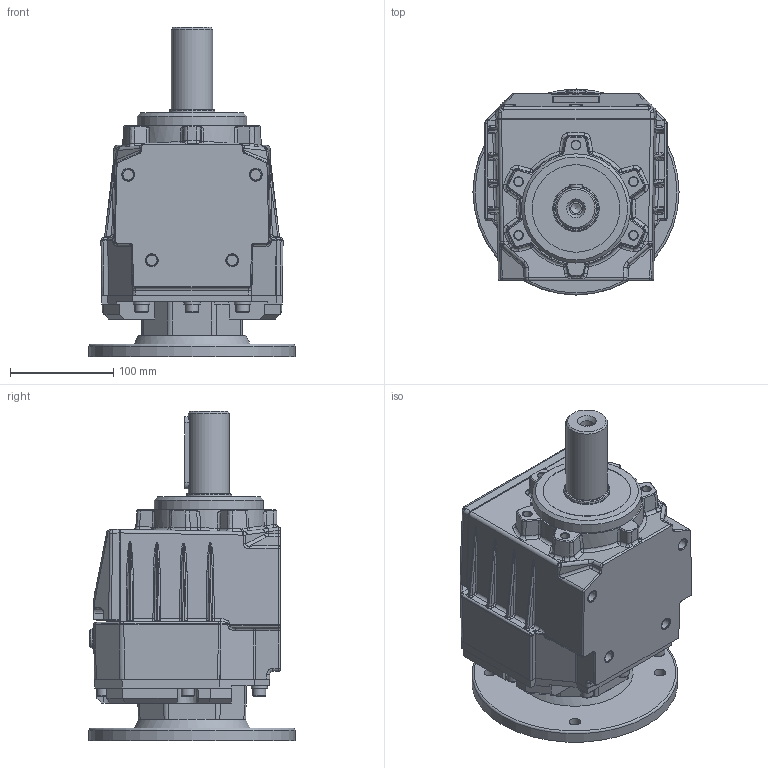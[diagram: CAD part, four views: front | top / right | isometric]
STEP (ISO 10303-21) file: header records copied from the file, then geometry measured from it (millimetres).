
FILE_DESCRIPTION( ( 'Unknown' ), '1' );
FILE_NAME( 'E:/services/configuratordownloads/customers/HYDROMEC/COASSIALI/download/9579FBB01E6A32A39D50771E93B1AE/STEP/9579FBB01E6A32A39D50771E93B1AE.3d.stp', 'Unknown', ( 'Unknown' ), ( 'Unknown' ), 'PSStep 10.1', 'Unknown', ' ' );
FILE_SCHEMA( ( 'AUTOMOTIVE_DESIGN { 1 0 10303 214 1 1 1 1 }' ) );
Length unit declared in the file: millimetre
Products named in the file (1): C618800
Bounding box: 200 x 200 x 319.4 mm (x, y, z)
Volume: 5280107.8 mm3; surface area: 299896.6 mm2
Topology: 1 solids, 24 shells, 1186 faces, 2814 edges, 1737 vertices
Faces by surface type: plane 538, cylinder 295, bspline 196, cone 89, torus 34, sphere 22, revolution 8, extrusion 4
Full cylindrical faces by diameter (mm): 4.917 x6, 6 x6, 6.5 x1, 7.175 x6, 8 x1, 8.376 x5, 8.5 x8, 10 x6, 10.106 x5, 11 x4, 11.3 x1, 11.445 x2, 12.75 x8, 13 x1, 13.5 x1, 18 x1, 19 x1, 20 x1, 22 x1, 40 x1, 45 x3, 68 x1, 75 x1, 85 x1, 106 x1, 130 x1, 200 x1
Entity records: 53865 total; most frequent: CARTESIAN_POINT 19653, ORIENTED_EDGE 5172, DIRECTION 4524, EDGE_CURVE 2586, VERTEX_POINT 1672, AXIS2_PLACEMENT_3D 1573, EDGE_LOOP 1426, VECTOR 1370
